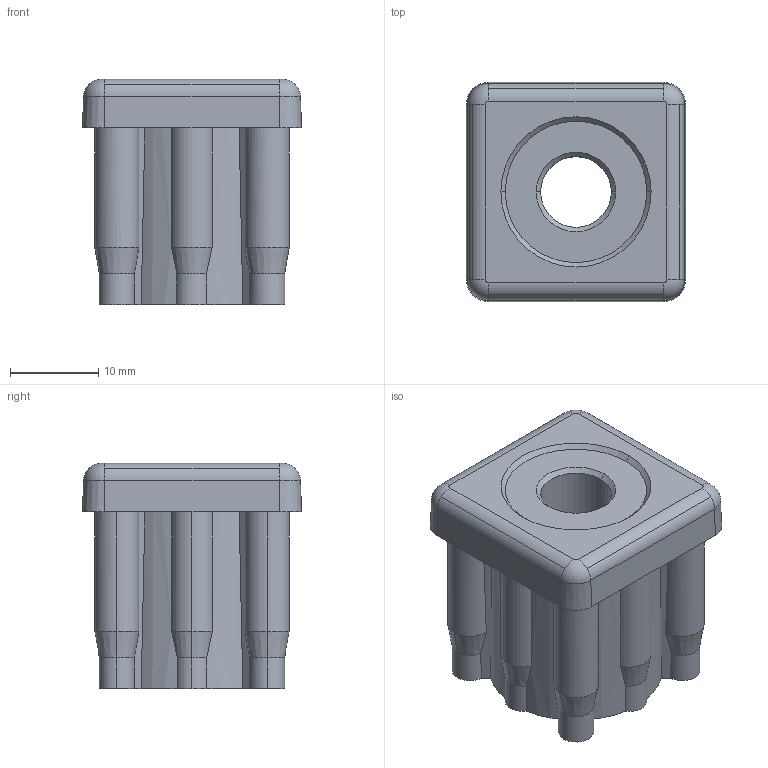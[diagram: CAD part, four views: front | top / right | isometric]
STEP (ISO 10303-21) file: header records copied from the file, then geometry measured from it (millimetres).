
FILE_DESCRIPTION (( 'STEP AP214' ), '1' );
FILE_NAME ('42006825208.STEP', '2020-02-25T17:33:37', ( '' ), ( '' ), 'SwSTEP 2.0', 'SolidWorks 2018', '' );
FILE_SCHEMA (( 'AUTOMOTIVE_DESIGN' ));
Length unit declared in the file: metre
Products named in the file (1): 42006825208
Bounding box: 24.8 x 24.8 x 25.5 mm (x, y, z)
Volume: 8553 mm3; surface area: 5552.6 mm2
Topology: 2 solids, 2 shells, 119 faces, 300 edges, 188 vertices
Faces by surface type: cylinder 62, cone 30, plane 19, torus 8
Entity records: 3641 total; most frequent: CARTESIAN_POINT 740, DIRECTION 640, ORIENTED_EDGE 600, EDGE_CURVE 300, AXIS2_PLACEMENT_3D 268, VERTEX_POINT 188, CIRCLE 148, EDGE_LOOP 126
